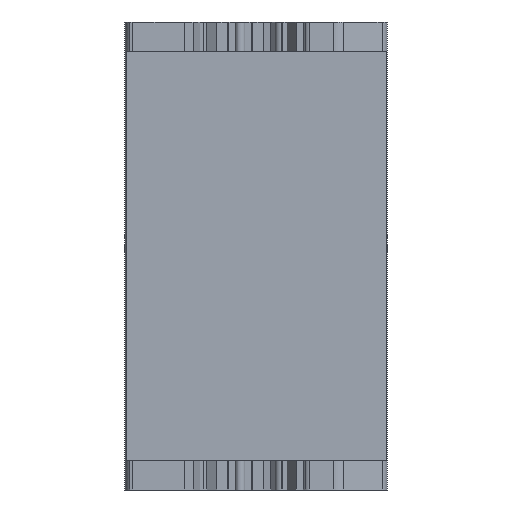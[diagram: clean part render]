
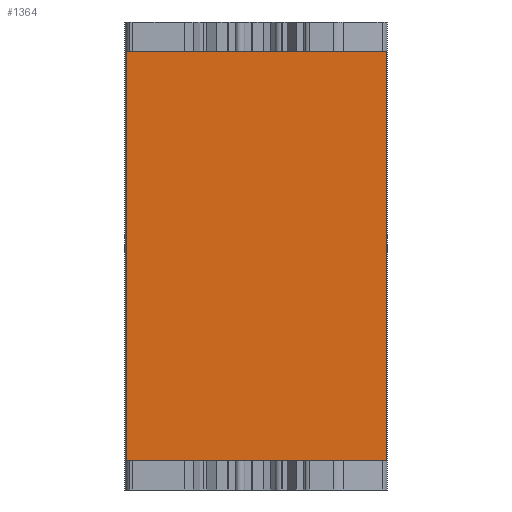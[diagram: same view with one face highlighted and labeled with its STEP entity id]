
A CAD part, front view. The second image highlights one B-rep face of the part: STEP entity #1364.
In plain terms, the highlighted planar face has unit normal (0, -1, 0).
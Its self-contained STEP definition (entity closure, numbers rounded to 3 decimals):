
#56 = ORIENTED_EDGE ( 'NONE', *, *, #638, .T. ) ;
#474 = CARTESIAN_POINT ( 'NONE',  ( -44.739, -0.45, 10. ) ) ;
#541 = LINE ( 'NONE', #474, #6535 ) ;
#555 = VECTOR ( 'NONE', #3401, 1000. ) ;
#638 = EDGE_CURVE ( 'NONE', #2153, #2507, #541, .T. ) ;
#921 = CARTESIAN_POINT ( 'NONE',  ( -44.739, -0.45, 149.5 ) ) ;
#1235 = ORIENTED_EDGE ( 'NONE', *, *, #4425, .F. ) ;
#1364 = ADVANCED_FACE ( 'NONE', ( #3551 ), #4149, .F. ) ;
#1390 = DIRECTION ( 'NONE',  ( 0., 0., -1. ) ) ;
#1803 = VERTEX_POINT ( 'NONE', #4636 ) ;
#2141 = EDGE_CURVE ( 'NONE', #1803, #2507, #2873, .T. ) ;
#2153 = VERTEX_POINT ( 'NONE', #4002 ) ;
#2507 = VERTEX_POINT ( 'NONE', #6147 ) ;
#2873 = LINE ( 'NONE', #6661, #3948 ) ;
#3047 = CARTESIAN_POINT ( 'NONE',  ( -44.306, -0.45, 149.5 ) ) ;
#3117 = CARTESIAN_POINT ( 'NONE',  ( -44.306, -0.45, 159.5 ) ) ;
#3372 = ORIENTED_EDGE ( 'NONE', *, *, #2141, .F. ) ;
#3401 = DIRECTION ( 'NONE',  ( 1., 0., 0. ) ) ;
#3551 = FACE_OUTER_BOUND ( 'NONE', #3926, .T. ) ;
#3736 = DIRECTION ( 'NONE',  ( 1., 0., 0. ) ) ;
#3926 = EDGE_LOOP ( 'NONE', ( #1235, #5255, #56, #3372 ) ) ;
#3948 = VECTOR ( 'NONE', #1390, 1000. ) ;
#4002 = CARTESIAN_POINT ( 'NONE',  ( -44.306, -0.45, 10. ) ) ;
#4017 = VERTEX_POINT ( 'NONE', #3047 ) ;
#4051 = DIRECTION ( 'NONE',  ( 0., 1., 0. ) ) ;
#4149 = PLANE ( 'NONE',  #6459 ) ;
#4425 = EDGE_CURVE ( 'NONE', #4017, #1803, #5637, .T. ) ;
#4636 = CARTESIAN_POINT ( 'NONE',  ( 44.306, -0.45, 149.5 ) ) ;
#4676 = DIRECTION ( 'NONE',  ( 0., 0., 1. ) ) ;
#4703 = LINE ( 'NONE', #3117, #6221 ) ;
#5222 = EDGE_CURVE ( 'NONE', #4017, #2153, #4703, .T. ) ;
#5255 = ORIENTED_EDGE ( 'NONE', *, *, #5222, .T. ) ;
#5535 = CARTESIAN_POINT ( 'NONE',  ( -44.739, -0.45, 149.5 ) ) ;
#5637 = LINE ( 'NONE', #5535, #555 ) ;
#6147 = CARTESIAN_POINT ( 'NONE',  ( 44.306, -0.45, 10. ) ) ;
#6221 = VECTOR ( 'NONE', #6828, 1000. ) ;
#6459 = AXIS2_PLACEMENT_3D ( 'NONE', #921, #4051, #4676 ) ;
#6535 = VECTOR ( 'NONE', #3736, 1000. ) ;
#6661 = CARTESIAN_POINT ( 'NONE',  ( 44.306, -0.45, 159.5 ) ) ;
#6828 = DIRECTION ( 'NONE',  ( 0., 0., -1. ) ) ;
